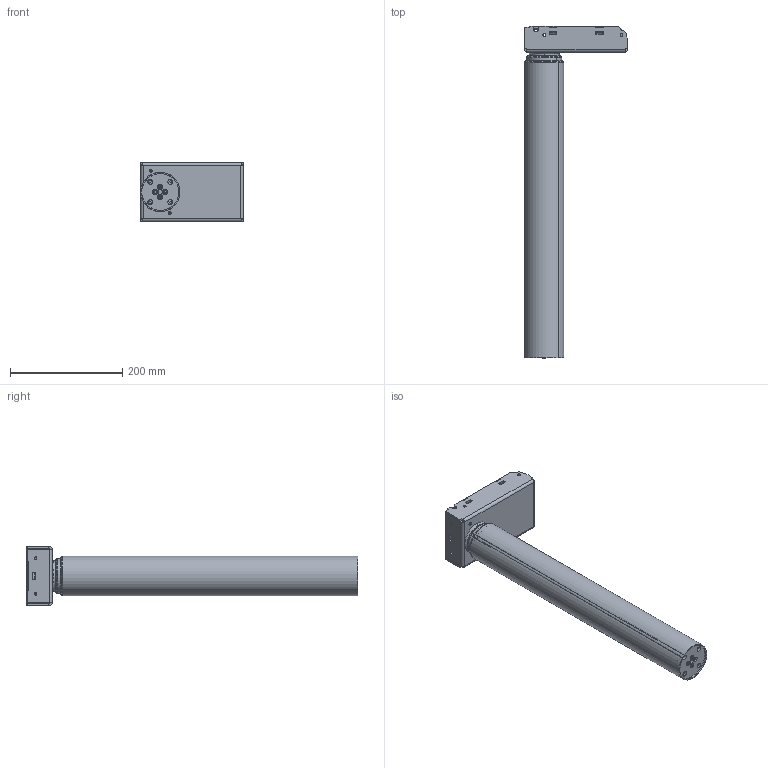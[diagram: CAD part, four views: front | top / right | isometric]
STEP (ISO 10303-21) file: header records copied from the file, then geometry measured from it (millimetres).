
FILE_DESCRIPTION (( 'STEP AP203' ), '1' );
FILE_NAME ('3D_TL9K.STEP', '2024-08-06T10:09:31', ( '' ), ( '' ), 'SwSTEP 2.0', 'SolidWorks 2015', '' );
FILE_SCHEMA (( 'CONFIG_CONTROL_DESIGN' ));
Products named in the file (2): 3D_TL9K
Bounding box: 183 x 591 x 105 mm (x, y, z)
Volume: 778216.2 mm3; surface area: 740691.2 mm2
Topology: 14 solids, 14 shells, 2704 faces, 6974 edges, 4145 vertices
Faces by surface type: cylinder 1111, plane 671, bspline 402, torus 196, cone 176, sphere 148
Entity records: 111746 total; most frequent: CARTESIAN_POINT 49871, ORIENTED_EDGE 13658, DIRECTION 12170, EDGE_CURVE 6829, AXIS2_PLACEMENT_3D 4735, VERTEX_POINT 4145, EDGE_LOOP 2828, FACE_OUTER_BOUND 2704
